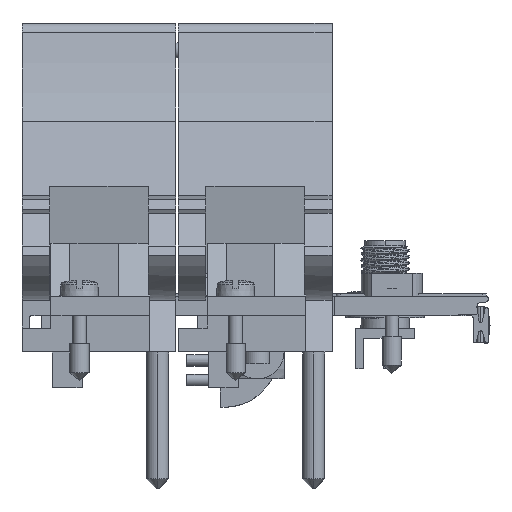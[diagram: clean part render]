
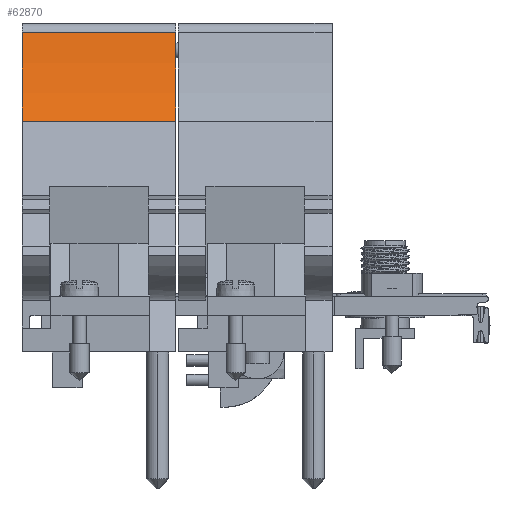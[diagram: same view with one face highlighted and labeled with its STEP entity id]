
A CAD part, front view. The second image highlights one B-rep face of the part: STEP entity #62870.
In plain terms, the highlighted cylindrical face has radius 51.46 mm (diameter 102.919 mm), a partial arc.
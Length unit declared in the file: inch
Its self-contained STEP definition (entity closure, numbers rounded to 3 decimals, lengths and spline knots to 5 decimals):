
#46022=CARTESIAN_POINT('',(-0.154,-2.23224,2.11688));
#46023=DIRECTION('',(-1.,0.,0.));
#46024=DIRECTION('',(0.,0.978,-0.21));
#46025=AXIS2_PLACEMENT_3D('',#46022,#46023,#46024);
#46908=CARTESIAN_POINT('',(0.634,-2.23224,2.11688));
#46909=DIRECTION('',(-1.,0.,0.));
#46910=DIRECTION('',(0.,0.978,-0.21));
#46911=AXIS2_PLACEMENT_3D('',#46908,#46909,#46910);
#47255=DIRECTION('',(-1.,0.,0.));
#47256=VECTOR('',#47255,0.788);
#47257=CARTESIAN_POINT('',(0.634,-0.2515,1.69121));
#47258=LINE('',#47257,#47256);
#47259=DIRECTION('',(1.,0.,0.));
#47260=VECTOR('',#47259,0.788);
#47261=CARTESIAN_POINT('',(-0.154,-0.408,1.23558));
#47262=LINE('',#47261,#47260);
#53373=CARTESIAN_POINT('',(-0.154,-0.408,1.23558));
#53374=VERTEX_POINT('',#53373);
#53375=CARTESIAN_POINT('',(-0.154,-0.2515,1.69121));
#53376=VERTEX_POINT('',#53375);
#53485=CARTESIAN_POINT('',(0.634,-0.408,1.23558));
#53486=VERTEX_POINT('',#53485);
#53487=CARTESIAN_POINT('',(0.634,-0.2515,1.69121));
#53488=VERTEX_POINT('',#53487);
#62858=CARTESIAN_POINT('',(-0.16976,-2.23224,2.11688));
#62859=DIRECTION('',(1.,0.,0.));
#62860=DIRECTION('',(0.,1.,0.));
#62861=AXIS2_PLACEMENT_3D('',#62858,#62859,#62860);
#62862=CYLINDRICAL_SURFACE('',#62861,2.02597);
#62863=ORIENTED_EDGE('',*,*,#62853,.F.);
#62864=ORIENTED_EDGE('',*,*,#62401,.T.);
#62866=ORIENTED_EDGE('',*,*,#62865,.F.);
#62867=ORIENTED_EDGE('',*,*,#61233,.F.);
#62868=EDGE_LOOP('',(#62863,#62864,#62866,#62867));
#62869=FACE_OUTER_BOUND('',#62868,.F.);
#62870=ADVANCED_FACE('',(#62869),#62862,.F.);
#46026=CIRCLE('',#46025,2.02597);
#46912=CIRCLE('',#46911,2.02597);
#61233=EDGE_CURVE('',#53376,#53374,#46026,.T.);
#62401=EDGE_CURVE('',#53488,#53486,#46912,.T.);
#62853=EDGE_CURVE('',#53488,#53376,#47258,.T.);
#62865=EDGE_CURVE('',#53374,#53486,#47262,.T.);
